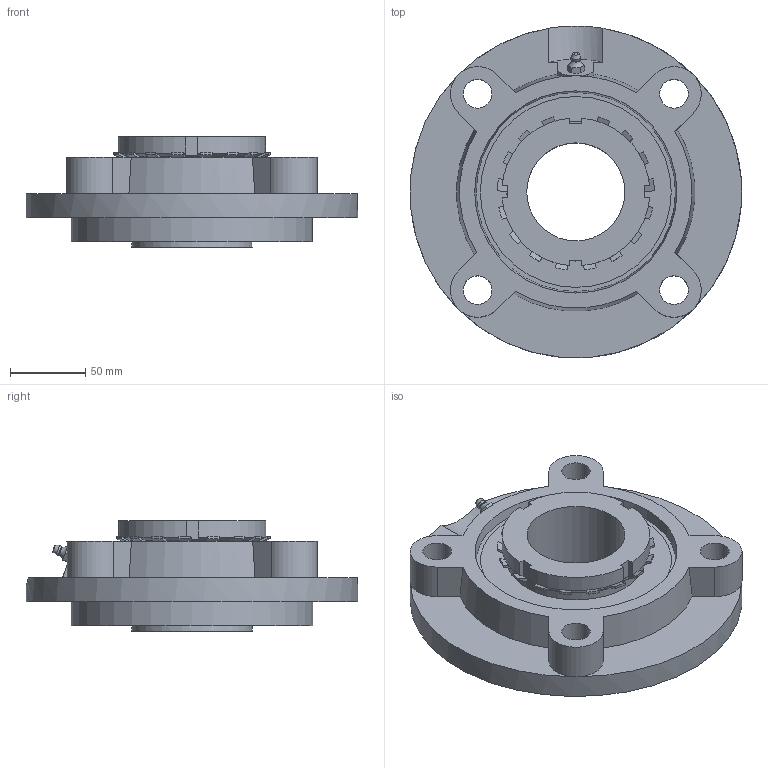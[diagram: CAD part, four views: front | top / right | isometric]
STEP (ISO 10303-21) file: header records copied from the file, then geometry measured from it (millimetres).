
FILE_DESCRIPTION((''),'2;1');
FILE_NAME('\\Ts-tgl068\j-cad-d-base\00.3DCADデータ作成フォルダ\02.フランジ形\UKFC200\UKFC215+H.stp','2014-11-20T16:43:10',('btec_1106_2'),(''),'Autodesk Inventor 2012','Autodesk Inventor 2012','');
FILE_SCHEMA(('AUTOMOTIVE_DESIGN { 1 0 10303 214 1 1 1 1 }'));
Length unit declared in the file: millimetre
Products named in the file (4): UKFC200+H; FC215; UK215; G1
Assembly tree (3 placements, depth 2):
  UKFC200+H
    FC215
    UK215
    G1
Bounding box: 219.74 x 219.94 x 73 mm (x, y, z)
Volume: 1065728.9 mm3; surface area: 182830.7 mm2
Topology: 3 solids, 3 shells, 206 faces, 525 edges, 334 vertices
Faces by surface type: plane 90, cylinder 54, cone 54, sphere 4, bspline 2, torus 2
Full cylindrical faces by diameter (mm): 8.566 x1, 9.728 x1, 19 x4, 65 x1, 75 x1, 91.5 x2, 160 x1, 220 x1
Entity records: 6162 total; most frequent: CARTESIAN_POINT 1358, ORIENTED_EDGE 984, DIRECTION 983, EDGE_CURVE 492, AXIS2_PLACEMENT_3D 397, VERTEX_POINT 321, EDGE_LOOP 253, FACE_OUTER_BOUND 206
